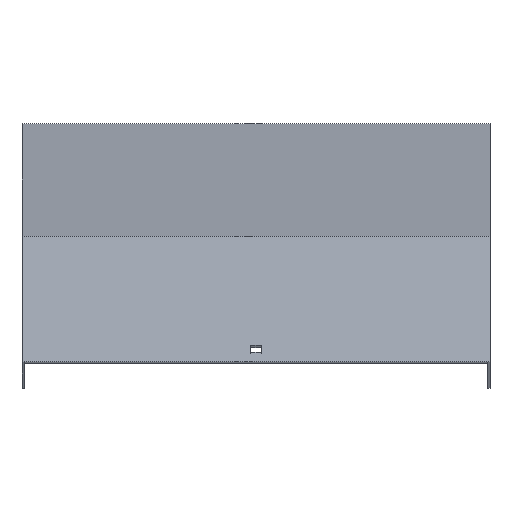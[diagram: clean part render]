
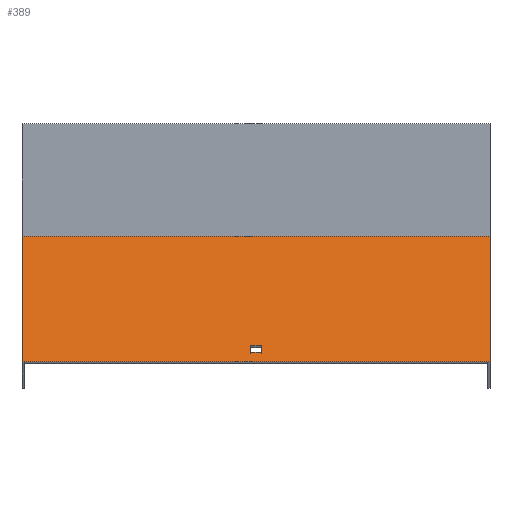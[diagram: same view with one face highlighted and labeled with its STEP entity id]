
A CAD part, top view. The second image highlights one B-rep face of the part: STEP entity #389.
In plain terms, the highlighted planar face has unit normal (0, 0.866, 0.5).
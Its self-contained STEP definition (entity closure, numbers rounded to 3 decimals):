
#18 = ORIENTED_EDGE ( 'NONE', *, *, #819, .T. ) ;
#23 = ORIENTED_EDGE ( 'NONE', *, *, #487, .F. ) ;
#44 = PLANE ( 'NONE',  #121 ) ;
#59 = VERTEX_POINT ( 'NONE', #263 ) ;
#66 = LINE ( 'NONE', #324, #273 ) ;
#67 = VECTOR ( 'NONE', #88, 1000. ) ;
#81 = VECTOR ( 'NONE', #440, 1000. ) ;
#88 = DIRECTION ( 'NONE',  ( 0., -0.5, 0.866 ) ) ;
#96 = VECTOR ( 'NONE', #821, 1000. ) ;
#115 = EDGE_LOOP ( 'NONE', ( #18, #414, #23, #726 ) ) ;
#121 = AXIS2_PLACEMENT_3D ( 'NONE', #177, #640, #507 ) ;
#127 = LINE ( 'NONE', #574, #219 ) ;
#163 = DIRECTION ( 'NONE',  ( -1., 0., 0. ) ) ;
#177 = CARTESIAN_POINT ( 'NONE',  ( 151.5, -54.89, 439.493 ) ) ;
#181 = DIRECTION ( 'NONE',  ( 1., 0., 0. ) ) ;
#204 = LINE ( 'NONE', #214, #67 ) ;
#214 = CARTESIAN_POINT ( 'NONE',  ( 151.5, -54.89, 439.493 ) ) ;
#217 = EDGE_CURVE ( 'NONE', #290, #465, #619, .T. ) ;
#219 = VECTOR ( 'NONE', #181, 1000. ) ;
#263 = CARTESIAN_POINT ( 'NONE',  ( -3.25, -124.39, 559.871 ) ) ;
#273 = VECTOR ( 'NONE', #589, 1000. ) ;
#276 = LINE ( 'NONE', #281, #539 ) ;
#281 = CARTESIAN_POINT ( 'NONE',  ( -151.5, -54.89, 439.493 ) ) ;
#290 = VERTEX_POINT ( 'NONE', #691 ) ;
#324 = CARTESIAN_POINT ( 'NONE',  ( 151.5, -53.573, 437.213 ) ) ;
#332 = ORIENTED_EDGE ( 'NONE', *, *, #352, .T. ) ;
#352 = EDGE_CURVE ( 'NONE', #59, #675, #127, .T. ) ;
#364 = ORIENTED_EDGE ( 'NONE', *, *, #544, .T. ) ;
#385 = CARTESIAN_POINT ( 'NONE',  ( -3.25, -54.89, 439.493 ) ) ;
#389 = ADVANCED_FACE ( 'NONE', ( #630, #519 ), #44, .F. ) ;
#401 = VECTOR ( 'NONE', #163, 1000. ) ;
#403 = EDGE_CURVE ( 'NONE', #675, #582, #836, .T. ) ;
#408 = EDGE_LOOP ( 'NONE', ( #332, #796, #364, #653 ) ) ;
#409 = EDGE_CURVE ( 'NONE', #437, #59, #715, .T. ) ;
#414 = ORIENTED_EDGE ( 'NONE', *, *, #217, .F. ) ;
#437 = VERTEX_POINT ( 'NONE', #575 ) ;
#440 = DIRECTION ( 'NONE',  ( 0., -0.5, 0.866 ) ) ;
#446 = VECTOR ( 'NONE', #846, 1000. ) ;
#465 = VERTEX_POINT ( 'NONE', #740 ) ;
#486 = VERTEX_POINT ( 'NONE', #807 ) ;
#487 = EDGE_CURVE ( 'NONE', #486, #290, #204, .T. ) ;
#507 = DIRECTION ( 'NONE',  ( 0., 0.5, -0.866 ) ) ;
#519 = FACE_OUTER_BOUND ( 'NONE', #115, .T. ) ;
#539 = VECTOR ( 'NONE', #542, 1000. ) ;
#542 = DIRECTION ( 'NONE',  ( 0., -0.5, 0.866 ) ) ;
#544 = EDGE_CURVE ( 'NONE', #582, #437, #564, .T. ) ;
#564 = LINE ( 'NONE', #828, #401 ) ;
#565 = CARTESIAN_POINT ( 'NONE',  ( 151.5, -134.89, 578.057 ) ) ;
#574 = CARTESIAN_POINT ( 'NONE',  ( 151.5, -124.39, 559.871 ) ) ;
#575 = CARTESIAN_POINT ( 'NONE',  ( -3.25, -128.89, 567.665 ) ) ;
#582 = VERTEX_POINT ( 'NONE', #775 ) ;
#589 = DIRECTION ( 'NONE',  ( -1., 0., 0. ) ) ;
#619 = LINE ( 'NONE', #565, #96 ) ;
#630 = FACE_BOUND ( 'NONE', #408, .T. ) ;
#640 = DIRECTION ( 'NONE',  ( 0., -0.866, -0.5 ) ) ;
#653 = ORIENTED_EDGE ( 'NONE', *, *, #409, .T. ) ;
#660 = CARTESIAN_POINT ( 'NONE',  ( 3.25, -124.39, 559.871 ) ) ;
#675 = VERTEX_POINT ( 'NONE', #660 ) ;
#676 = EDGE_CURVE ( 'NONE', #486, #855, #66, .T. ) ;
#691 = CARTESIAN_POINT ( 'NONE',  ( 151.5, -134.89, 578.057 ) ) ;
#711 = CARTESIAN_POINT ( 'NONE',  ( 3.25, -54.89, 439.493 ) ) ;
#715 = LINE ( 'NONE', #385, #446 ) ;
#726 = ORIENTED_EDGE ( 'NONE', *, *, #676, .T. ) ;
#740 = CARTESIAN_POINT ( 'NONE',  ( -151.5, -134.89, 578.057 ) ) ;
#764 = CARTESIAN_POINT ( 'NONE',  ( -151.5, -53.573, 437.213 ) ) ;
#775 = CARTESIAN_POINT ( 'NONE',  ( 3.25, -128.89, 567.665 ) ) ;
#796 = ORIENTED_EDGE ( 'NONE', *, *, #403, .T. ) ;
#807 = CARTESIAN_POINT ( 'NONE',  ( 151.5, -53.573, 437.213 ) ) ;
#819 = EDGE_CURVE ( 'NONE', #855, #465, #276, .T. ) ;
#821 = DIRECTION ( 'NONE',  ( -1., 0., 0. ) ) ;
#828 = CARTESIAN_POINT ( 'NONE',  ( 151.5, -128.89, 567.665 ) ) ;
#836 = LINE ( 'NONE', #711, #81 ) ;
#846 = DIRECTION ( 'NONE',  ( 0., 0.5, -0.866 ) ) ;
#855 = VERTEX_POINT ( 'NONE', #764 ) ;
